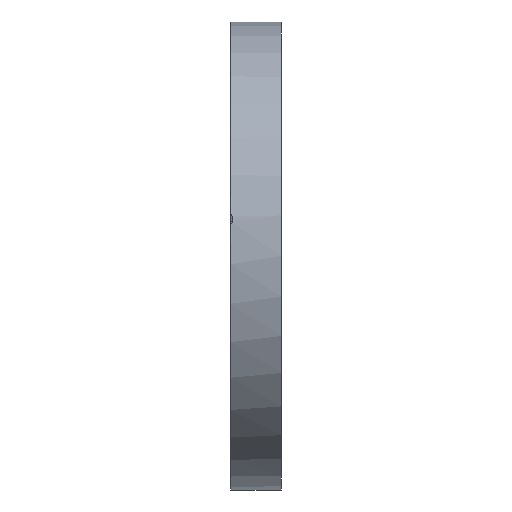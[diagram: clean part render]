
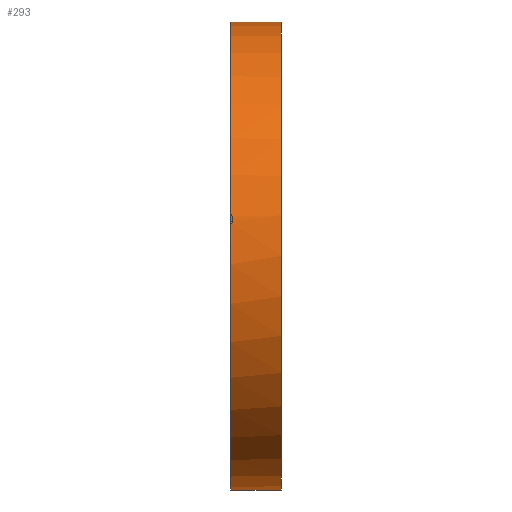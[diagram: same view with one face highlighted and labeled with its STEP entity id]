
A CAD part, left-side view. The second image highlights one B-rep face of the part: STEP entity #293.
In plain terms, the highlighted cylindrical face has radius 101.5 mm (diameter 203 mm), a partial arc.
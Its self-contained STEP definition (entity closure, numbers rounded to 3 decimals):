
#138 = CARTESIAN_POINT ( 'NONE',  ( -100.576, 22., 13.666 ) ) ;
#171 = CARTESIAN_POINT ( 'NONE',  ( -99.901, 21.842, 17.944 ) ) ;
#253 = EDGE_LOOP ( 'NONE', ( #2029, #2248, #1740, #1277, #800, #664 ) ) ;
#267 = VERTEX_POINT ( 'NONE', #934 ) ;
#269 = EDGE_CURVE ( 'NONE', #600, #1977, #596, .T. ) ;
#293 = ADVANCED_FACE ( 'NONE', ( #308 ), #2084, .T. ) ;
#308 = FACE_OUTER_BOUND ( 'NONE', #253, .T. ) ;
#335 = B_SPLINE_CURVE_WITH_KNOTS ( 'NONE', 3,
 ( #138, #2257, #1685, #2031, #982, #2089, #663, #1739, #2077, #500, #1036, #2268, #686, #864, #510, #1577, #171, #532 ),
 .UNSPECIFIED., .F., .F.,
 ( 4, 2, 2, 2, 2, 2, 2, 2, 4 ),
 ( 0., 0.001, 0.001, 0.002, 0.003, 0.003, 0.004, 0.004, 0.005 ),
 .UNSPECIFIED. ) ;
#364 = CARTESIAN_POINT ( 'NONE',  ( 0., 0., 101.5 ) ) ;
#413 = VERTEX_POINT ( 'NONE', #1424 ) ;
#415 = VERTEX_POINT ( 'NONE', #550 ) ;
#421 = CARTESIAN_POINT ( 'NONE',  ( 0., 0., -101.5 ) ) ;
#445 = EDGE_CURVE ( 'NONE', #600, #415, #2227, .T. ) ;
#493 = CARTESIAN_POINT ( 'NONE',  ( 0., 22., 0. ) ) ;
#500 = CARTESIAN_POINT ( 'NONE',  ( -100.218, 21., 16.085 ) ) ;
#510 = CARTESIAN_POINT ( 'NONE',  ( -99.988, 21.454, 17.457 ) ) ;
#532 = CARTESIAN_POINT ( 'NONE',  ( -99.876, 22., 18.083 ) ) ;
#550 = CARTESIAN_POINT ( 'NONE',  ( 0., 0., 101.5 ) ) ;
#596 = LINE ( 'NONE', #1642, #1711 ) ;
#597 = CARTESIAN_POINT ( 'NONE',  ( 0., 22., -101.5 ) ) ;
#600 = VERTEX_POINT ( 'NONE', #421 ) ;
#663 = CARTESIAN_POINT ( 'NONE',  ( -100.378, 21.11, 15.055 ) ) ;
#664 = ORIENTED_EDGE ( 'NONE', *, *, #1896, .F. ) ;
#686 = CARTESIAN_POINT ( 'NONE',  ( -100.084, 21.175, 16.897 ) ) ;
#723 = AXIS2_PLACEMENT_3D ( 'NONE', #1079, #897, #2289 ) ;
#727 = DIRECTION ( 'NONE',  ( 0., 0., 1. ) ) ;
#800 = ORIENTED_EDGE ( 'NONE', *, *, #1776, .F. ) ;
#820 = AXIS2_PLACEMENT_3D ( 'NONE', #1214, #1344, #829 ) ;
#829 = DIRECTION ( 'NONE',  ( 0., 0., 1. ) ) ;
#864 = CARTESIAN_POINT ( 'NONE',  ( -100.019, 21.347, 17.275 ) ) ;
#865 = CIRCLE ( 'NONE', #723, 101.5 ) ;
#870 = DIRECTION ( 'NONE',  ( 0., 1., 0. ) ) ;
#897 = DIRECTION ( 'NONE',  ( 0., 1., 0. ) ) ;
#934 = CARTESIAN_POINT ( 'NONE',  ( -100.576, 22., 13.666 ) ) ;
#982 = CARTESIAN_POINT ( 'NONE',  ( -100.462, 21.347, 14.478 ) ) ;
#1036 = CARTESIAN_POINT ( 'NONE',  ( -100.184, 21.022, 16.293 ) ) ;
#1079 = CARTESIAN_POINT ( 'NONE',  ( 0., 22., 0. ) ) ;
#1206 = VECTOR ( 'NONE', #1585, 1000. ) ;
#1214 = CARTESIAN_POINT ( 'NONE',  ( 0., 0., 0. ) ) ;
#1229 = AXIS2_PLACEMENT_3D ( 'NONE', #1771, #870, #727 ) ;
#1277 = ORIENTED_EDGE ( 'NONE', *, *, #1288, .F. ) ;
#1288 = EDGE_CURVE ( 'NONE', #1470, #413, #1421, .T. ) ;
#1344 = DIRECTION ( 'NONE',  ( 0., 1., 0. ) ) ;
#1351 = AXIS2_PLACEMENT_3D ( 'NONE', #493, #2059, #2044 ) ;
#1389 = CARTESIAN_POINT ( 'NONE',  ( -99.876, 22., 18.083 ) ) ;
#1421 = CIRCLE ( 'NONE', #1351, 101.5 ) ;
#1424 = CARTESIAN_POINT ( 'NONE',  ( 0., 22., 101.5 ) ) ;
#1470 = VERTEX_POINT ( 'NONE', #1389 ) ;
#1577 = CARTESIAN_POINT ( 'NONE',  ( -99.929, 21.701, 17.79 ) ) ;
#1585 = DIRECTION ( 'NONE',  ( 0., 1., 0. ) ) ;
#1642 = CARTESIAN_POINT ( 'NONE',  ( 0., 0., -101.5 ) ) ;
#1685 = CARTESIAN_POINT ( 'NONE',  ( -100.536, 21.701, 13.96 ) ) ;
#1711 = VECTOR ( 'NONE', #2073, 1000. ) ;
#1739 = CARTESIAN_POINT ( 'NONE',  ( -100.316, 21.022, 15.462 ) ) ;
#1740 = ORIENTED_EDGE ( 'NONE', *, *, #1888, .T. ) ;
#1764 = LINE ( 'NONE', #364, #1206 ) ;
#1771 = CARTESIAN_POINT ( 'NONE',  ( 0., 0., 0. ) ) ;
#1776 = EDGE_CURVE ( 'NONE', #267, #1470, #335, .T. ) ;
#1888 = EDGE_CURVE ( 'NONE', #415, #413, #1764, .T. ) ;
#1896 = EDGE_CURVE ( 'NONE', #1977, #267, #865, .T. ) ;
#1977 = VERTEX_POINT ( 'NONE', #597 ) ;
#2029 = ORIENTED_EDGE ( 'NONE', *, *, #269, .F. ) ;
#2031 = CARTESIAN_POINT ( 'NONE',  ( -100.488, 21.454, 14.295 ) ) ;
#2044 = DIRECTION ( 'NONE',  ( 0., 0., 1. ) ) ;
#2059 = DIRECTION ( 'NONE',  ( 0., 1., 0. ) ) ;
#2073 = DIRECTION ( 'NONE',  ( 0., 1., 0. ) ) ;
#2077 = CARTESIAN_POINT ( 'NONE',  ( -100.283, 21., 15.671 ) ) ;
#2084 = CYLINDRICAL_SURFACE ( 'NONE', #820, 101.5 ) ;
#2089 = CARTESIAN_POINT ( 'NONE',  ( -100.407, 21.175, 14.858 ) ) ;
#2227 = CIRCLE ( 'NONE', #1229, 101.5 ) ;
#2248 = ORIENTED_EDGE ( 'NONE', *, *, #445, .T. ) ;
#2257 = CARTESIAN_POINT ( 'NONE',  ( -100.557, 21.842, 13.806 ) ) ;
#2268 = CARTESIAN_POINT ( 'NONE',  ( -100.117, 21.11, 16.7 ) ) ;
#2289 = DIRECTION ( 'NONE',  ( 0., 0., 1. ) ) ;
